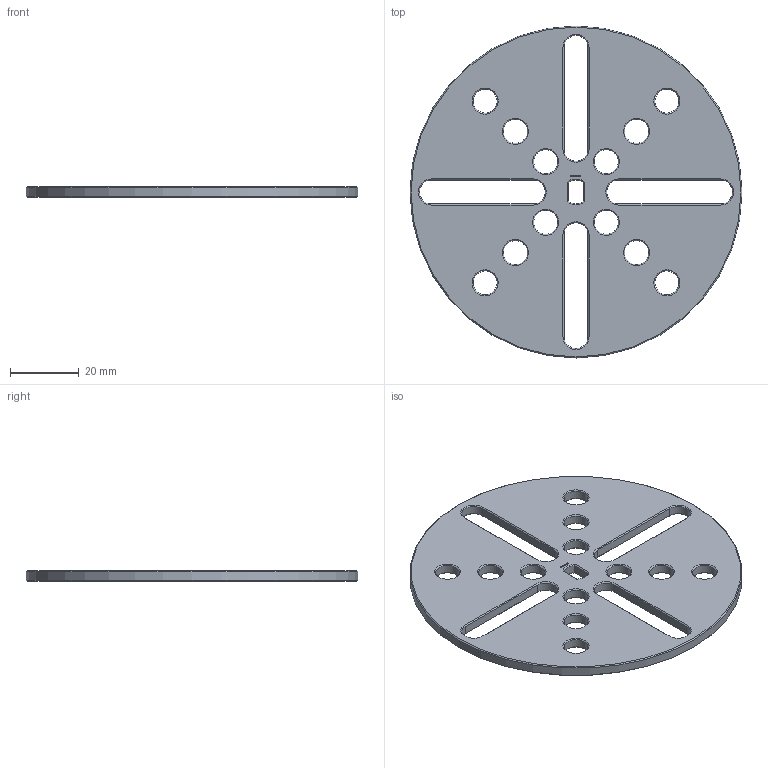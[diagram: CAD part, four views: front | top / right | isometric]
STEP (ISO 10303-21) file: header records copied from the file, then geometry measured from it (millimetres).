
FILE_DESCRIPTION(/* description */ (''),/* implementation_level */ '2;1');
FILE_NAME(/* name */ '/Users/paulokiefe/Desktop/STEMFIE/Fasteners/Washers/Fixed/Washer WSR FXD BU0.25x7.75 - SPN-WSR-0028 v1.step',/* time_stamp */ '2020-09-27T23:21:22+02:00',/* author */ (''),/* organization */ (''),/* preprocessor_version */ 'ST-DEVELOPER v18.1',/* originating_system */ 'Autodesk Translation Framework v9.3.0.1241',/* authorisation */ '');
FILE_SCHEMA (('AUTOMOTIVE_DESIGN { 1 0 10303 214 3 1 1 }'));
Length unit declared in the file: millimetre
Products named in the file (1): Washer WSR FXD BU0.25x7.75 - SPN-WSR-0028
Bounding box: 96.88 x 96.88 x 3.12 mm (x, y, z)
Volume: 18339.1 mm3; surface area: 14330 mm2
Topology: 1 solids, 1 shells, 345 faces, 927 edges, 596 vertices
Faces by surface type: plane 276, cone 46, cylinder 23
Full cylindrical faces by diameter (mm): 7 x12, 96.875 x1
Entity records: 10674 total; most frequent: CARTESIAN_POINT 1893, ORIENTED_EDGE 1854, DIRECTION 1703, EDGE_CURVE 927, LINE 827, VECTOR 827, VERTEX_POINT 596, AXIS2_PLACEMENT_3D 438
